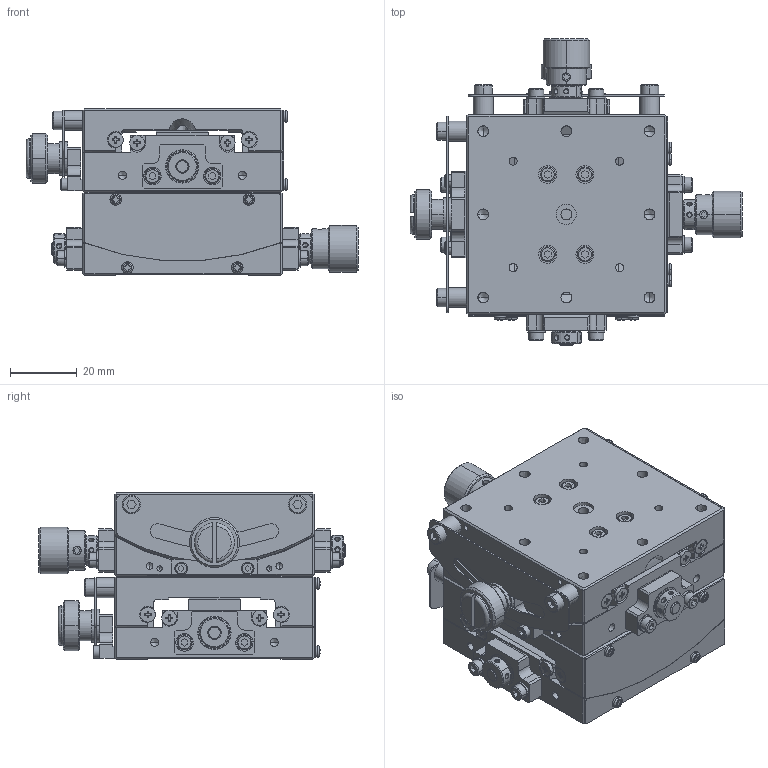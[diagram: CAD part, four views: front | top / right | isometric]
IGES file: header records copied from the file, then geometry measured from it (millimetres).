
Global section: file name: No Iges File Name specified; native system: AutoDesk Inventor R11.0; preprocessor: AutoDesk Inventor Iges Exporter R11.0; author: No Author specified; organization: No Organization specified; date: 20070830.143308; units: millimetre
Bounding box: 99.8 x 92.1 x 50 mm (x, y, z)
Volume: 158710.2 mm3; surface area: 74199.8 mm2
Topology: 3 solids, 122 shells, 2996 faces, 7370 edges, 4602 vertices
Faces by surface type: plane 1267, bspline 807, cylinder 434, cone 244, revolution 160, torus 52, sphere 32
